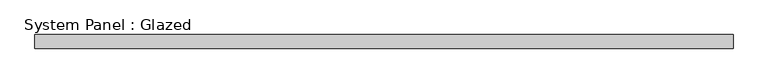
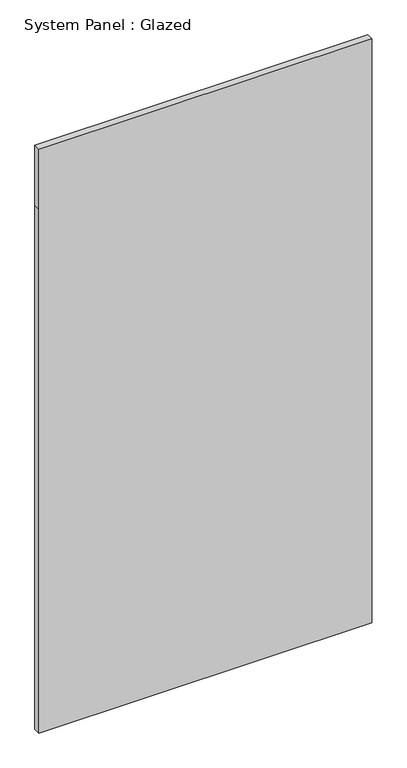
"""IFC4 building model written with IfcOpenShell, lengths in millimetres: plate geometry, System Panel : Glazed."""

from ifc_helpers import new_model, si_unit, frame, origin, place, context, project, spatial, polyline, outline, extrude, source, transform, mapped, element, save


def system_panel_glazed_7bbe6979(model_context):
    return source(origin(), model_context, "Body", "SweptSolid", [
        extrude(outline(polyline([(0.0, -631.825), (0.0, 631.825), (2101.85, 631.825), (2343.15, 631.825), (2343.15, -631.825), (2101.85, -631.825), (0.0, -631.825)])), frame((0.0, -44.45, 0.0), z_axis=(0.0, 1.0, 0.0), x_axis=(0.0, 0.0, 1.0)), (0.0, 0.0, 1.0), 25.4),
    ])


if __name__ == "__main__":
    model = new_model("IFC4")
    model_context = context("Model", 3, world=origin())
    ifc_project = project(units=[si_unit("LENGTHUNIT", "METRE", prefix="MILLI")], contexts=[model_context])
    site = spatial("IfcSite", under=ifc_project)
    building = spatial("IfcBuilding", under=site)
    placement = place(None, origin())
    system_panel_glazed_shape = system_panel_glazed_7bbe6979(model_context)
    element("IfcPlate", 1, ObjectType="System Panel : Glazed", at=placement, inside=building, context=model_context, shape_type="MappedRepresentation", body=[
        mapped(system_panel_glazed_shape, transform((0.0, 0.0, 0.0), x_axis=(1.0, 0.0, 0.0), y_axis=(0.0, 1.0, 0.0), z_axis=(0.0, 0.0, 1.0))),
    ])
    save(model, "model.ifc")
